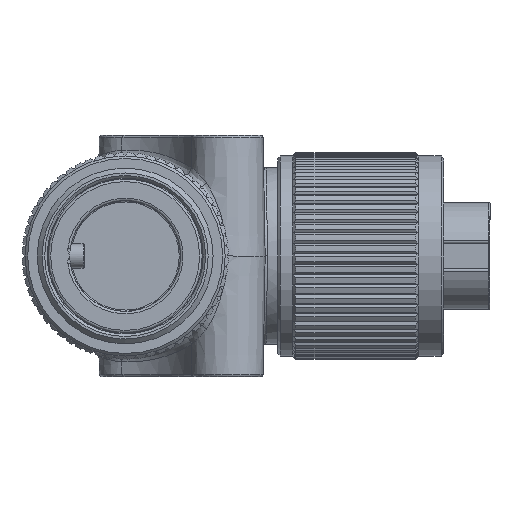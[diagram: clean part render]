
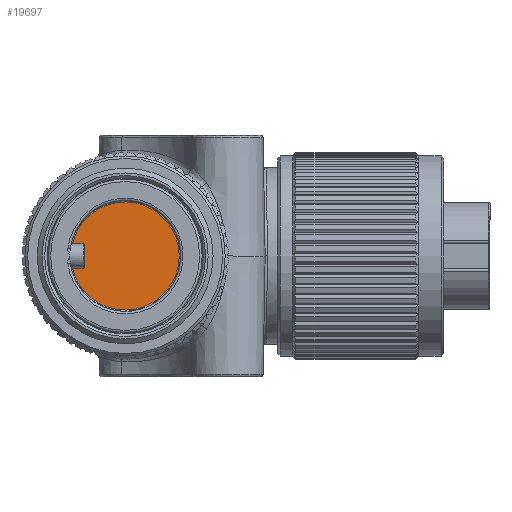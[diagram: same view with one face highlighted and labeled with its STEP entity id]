
A CAD part, left-side view. The second image highlights one B-rep face of the part: STEP entity #19697.
In plain terms, the highlighted planar face has unit normal (-1, 0, 0).
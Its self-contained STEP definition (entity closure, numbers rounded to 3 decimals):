
#169 = ORIENTED_EDGE ( 'NONE', *, *, #3685, .T. ) ;
#465 = DIRECTION ( 'NONE',  ( 0., 0., -1. ) ) ;
#1859 = EDGE_LOOP ( 'NONE', ( #8879, #169, #25335, #17560, #11152, #23594 ) ) ;
#2232 = DIRECTION ( 'NONE',  ( 0., -1., 0. ) ) ;
#2751 = CIRCLE ( 'NONE', #34566, 0.25 ) ;
#3137 = VECTOR ( 'NONE', #26998, 1000. ) ;
#3685 = EDGE_CURVE ( 'NONE', #22271, #20437, #42111, .T. ) ;
#4021 = LINE ( 'NONE', #18423, #28086 ) ;
#4238 = DIRECTION ( 'NONE',  ( 0., 1., 0. ) ) ;
#4625 = AXIS2_PLACEMENT_3D ( 'NONE', #18689, #8712, #35721 ) ;
#4708 = DIRECTION ( 'NONE',  ( 0., 0., -1. ) ) ;
#6699 = FACE_OUTER_BOUND ( 'NONE', #1859, .T. ) ;
#7672 = CARTESIAN_POINT ( 'NONE',  ( -48.287, 39.35, 2.4 ) ) ;
#8712 = DIRECTION ( 'NONE',  ( 1., 0., 0. ) ) ;
#8879 = ORIENTED_EDGE ( 'NONE', *, *, #43100, .F. ) ;
#9466 = EDGE_CURVE ( 'NONE', #10074, #20626, #4021, .T. ) ;
#10074 = VERTEX_POINT ( 'NONE', #38835 ) ;
#11141 = CARTESIAN_POINT ( 'NONE',  ( -48.287, 39.35, 2.15 ) ) ;
#11152 = ORIENTED_EDGE ( 'NONE', *, *, #15795, .F. ) ;
#14345 = DIRECTION ( 'NONE',  ( -1., 0., 0. ) ) ;
#15795 = EDGE_CURVE ( 'NONE', #10074, #23584, #2751, .T. ) ;
#17258 = CARTESIAN_POINT ( 'NONE',  ( -48.287, 39.1, 0. ) ) ;
#17367 = CIRCLE ( 'NONE', #4625, 10.75 ) ;
#17560 = ORIENTED_EDGE ( 'NONE', *, *, #41038, .T. ) ;
#17657 = CARTESIAN_POINT ( 'NONE',  ( -48.287, 39.35, -2.15 ) ) ;
#18423 = CARTESIAN_POINT ( 'NONE',  ( -48.287, 36.5, -2.4 ) ) ;
#18689 = CARTESIAN_POINT ( 'NONE',  ( -48.287, 31., 0. ) ) ;
#18782 = VECTOR ( 'NONE', #2232, 1000. ) ;
#19697 = ADVANCED_FACE ( 'NONE', ( #6699 ), #26835, .F. ) ;
#20144 = CARTESIAN_POINT ( 'NONE',  ( -48.287, 39.1, -2.15 ) ) ;
#20437 = VERTEX_POINT ( 'NONE', #7672 ) ;
#20626 = VERTEX_POINT ( 'NONE', #26456 ) ;
#22271 = VERTEX_POINT ( 'NONE', #41018 ) ;
#22551 = CIRCLE ( 'NONE', #28872, 0.25 ) ;
#23389 = EDGE_CURVE ( 'NONE', #31982, #20437, #22551, .T. ) ;
#23584 = VERTEX_POINT ( 'NONE', #20144 ) ;
#23594 = ORIENTED_EDGE ( 'NONE', *, *, #9466, .T. ) ;
#25335 = ORIENTED_EDGE ( 'NONE', *, *, #23389, .F. ) ;
#25711 = CARTESIAN_POINT ( 'NONE',  ( -48.287, 36.5, 2.4 ) ) ;
#26456 = CARTESIAN_POINT ( 'NONE',  ( -48.287, 41.479, -2.4 ) ) ;
#26835 = PLANE ( 'NONE',  #34461 ) ;
#26998 = DIRECTION ( 'NONE',  ( 0., 0., -1. ) ) ;
#27693 = CARTESIAN_POINT ( 'NONE',  ( -48.287, 39.1, 2.15 ) ) ;
#27831 = DIRECTION ( 'NONE',  ( 0., 0., -1. ) ) ;
#28086 = VECTOR ( 'NONE', #4238, 1000. ) ;
#28872 = AXIS2_PLACEMENT_3D ( 'NONE', #11141, #37928, #4708 ) ;
#30957 = LINE ( 'NONE', #17258, #3137 ) ;
#31982 = VERTEX_POINT ( 'NONE', #27693 ) ;
#34461 = AXIS2_PLACEMENT_3D ( 'NONE', #40351, #37249, #465 ) ;
#34566 = AXIS2_PLACEMENT_3D ( 'NONE', #17657, #14345, #27831 ) ;
#35721 = DIRECTION ( 'NONE',  ( 0., 0., 1. ) ) ;
#37249 = DIRECTION ( 'NONE',  ( 1., 0., 0. ) ) ;
#37928 = DIRECTION ( 'NONE',  ( -1., 0., 0. ) ) ;
#38835 = CARTESIAN_POINT ( 'NONE',  ( -48.287, 39.35, -2.4 ) ) ;
#40351 = CARTESIAN_POINT ( 'NONE',  ( -48.287, 36.5, 0. ) ) ;
#41018 = CARTESIAN_POINT ( 'NONE',  ( -48.287, 41.479, 2.4 ) ) ;
#41038 = EDGE_CURVE ( 'NONE', #31982, #23584, #30957, .T. ) ;
#42111 = LINE ( 'NONE', #25711, #18782 ) ;
#43100 = EDGE_CURVE ( 'NONE', #22271, #20626, #17367, .T. ) ;
